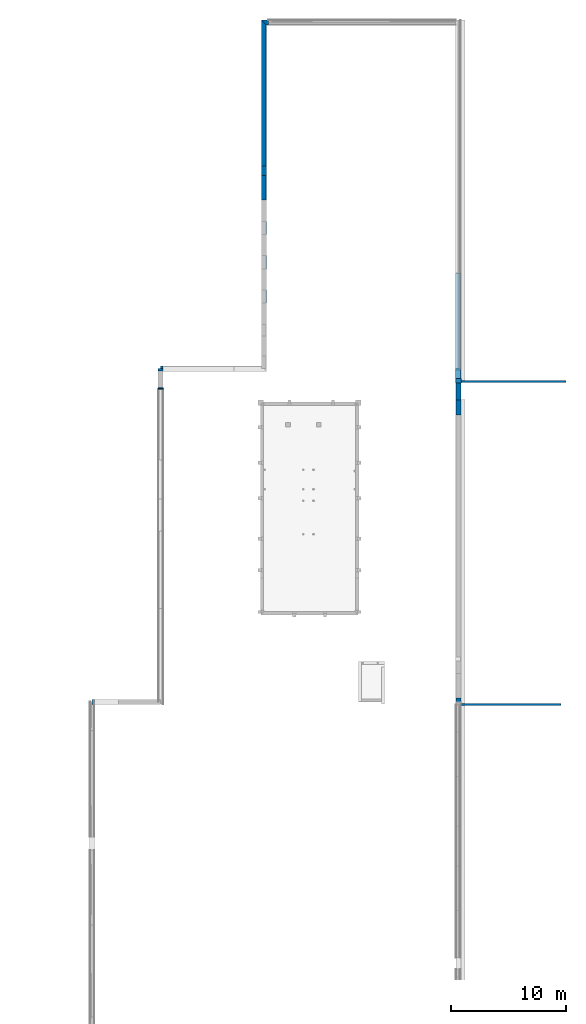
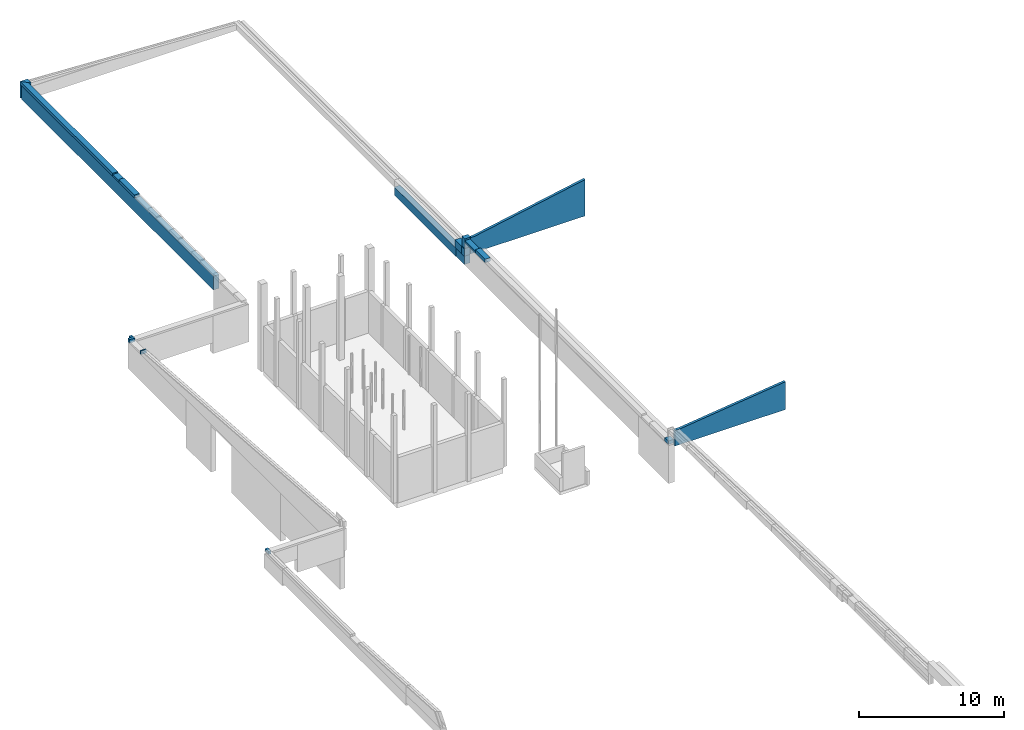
# One storey, part 4 of 17: 19 walls.
"""IFC2X3 building model written with IfcOpenShell, lengths in millimetres."""

from ifc_helpers import new_model, entity, si_unit, converted_unit, derived_unit, money_unit, direction, frame, origin_with_axes, place, context, subcontext, project, spatial, polyline, outline, extrude, boolean, faceted_brep, material, layer, layer_set, layer_usage, type_object, element, save


model = new_model("IFC2X3")

# Units and contexts
model_context = context("Model", 3, precision=0.01, world=origin_with_axes(), true_north=direction((0.0, 1.0)))
body_context = subcontext(model_context, "Body", "Model", "MODEL_VIEW")
ifc_project = project(units=[si_unit("LENGTHUNIT", "METRE", prefix="MILLI"), si_unit("AREAUNIT", "SQUARE_METRE"), si_unit("VOLUMEUNIT", "CUBIC_METRE"), converted_unit("PLANEANGLEUNIT", "DEGREE", entity("IfcPlaneAngleMeasure", 0.0174532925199), si_unit("PLANEANGLEUNIT", "RADIAN"), dimensions=[0, 0, 0, 0, 0, 0, 0]), si_unit("SOLIDANGLEUNIT", "STERADIAN"), money_unit("EUR"), converted_unit("TIMEUNIT", "Year", entity("IfcTimeMeasure", 31556926.0), si_unit("TIMEUNIT", "SECOND"), dimensions=[0, 0, 1, 0, 0, 0, 0]), si_unit("MASSUNIT", "GRAM", prefix="KILO"), si_unit("THERMODYNAMICTEMPERATUREUNIT", "DEGREE_CELSIUS"), si_unit("LUMINOUSINTENSITYUNIT", "LUMEN"), si_unit("ENERGYUNIT", "JOULE", prefix="MEGA"), derived_unit("THERMALCONDUCTANCEUNIT", [(si_unit("POWERUNIT", "WATT"), 1), (si_unit("LENGTHUNIT", "METRE"), -1), (si_unit("THERMODYNAMICTEMPERATUREUNIT", "KELVIN"), -1)]), derived_unit("SPECIFICHEATCAPACITYUNIT", [(si_unit("ENERGYUNIT", "JOULE"), 1), (si_unit("MASSUNIT", "GRAM", prefix="KILO"), -1), (si_unit("THERMODYNAMICTEMPERATUREUNIT", "KELVIN"), -1)]), derived_unit("MASSDENSITYUNIT", [(si_unit("MASSUNIT", "GRAM", prefix="KILO"), 1), (si_unit("VOLUMEUNIT", "CUBIC_METRE"), -1)])], contexts=[model_context])

# Site, building, storey
site_placement = place(None, origin_with_axes())
site = spatial("IfcSite", under=ifc_project, at=site_placement, Name="Puškini 31, Narva", CompositionType="ELEMENT")
building_placement = place(site_placement, origin_with_axes())
building = spatial("IfcBuilding", under=site, at=building_placement, Name="Narva Riigigümnaasium", CompositionType="ELEMENT")
storey_placement = place(building_placement, frame((0.0, 0.0, -6800.0), z_axis=(0.0, 0.0, 1.0), x_axis=(1.0, 0.0, 0.0)))
storey = spatial("IfcBuildingStorey", under=building, at=storey_placement, Name="0.korrus -6.8", CompositionType="ELEMENT", Elevation=-6800.0)

# Walls
ifc_material_1 = material(Name="KON-06_Raudbetoon - Konstruktsioon")
wall_type_1 = type_object("IfcWallType", Name="KON-06_Raudbetoon - Konstruktsioon 200", PredefinedType="NOTDEFINED")
wall_1_placement = place(storey_placement, frame((63166.6492392, 194765.0, 3200.0), z_axis=(0.0, 0.0, 1.0), x_axis=(-1.0, 0.0, 0.0)))
element("IfcWall", 1, at=wall_1_placement, inside=storey, type_object=wall_type_1, material=ifc_material_1, Name="Tugimüür", context=body_context, shape_type="CSG", body=[
    boolean("DIFFERENCE", extrude(outline(polyline([(0.0, 0.0), (8756.64106517, 0.0), (8756.64106517, 200.0), (0.0, 200.0), (0.0, 0.0)])), origin_with_axes(), (0.0, 0.0, 1.0), 2331.73929244), faceted_brep([(0.679470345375, 200.000000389, 2331.73929244), (0.679470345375, 2.03215222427e-07, 2331.73929244), (8756.64106517, 0.0, 2331.73929244), (8756.64106517, 200.0, 2331.73929244), (8356.64925138, 0.0, 1306.9349504), (8356.64925138, 200.0, 1306.9349504), (8756.64106517, 0.0, 1306.9349504), (8756.64106517, 200.0, 1306.9349504)], [[[0, 1, 2, 3]], [[4, 1, 0, 5]], [[4, 6, 2, 1]], [[6, 7, 3, 2]], [[5, 0, 3, 7]], [[6, 4, 5, 7]]])),
])
wall_2_placement = place(storey_placement, frame((63575.131775, 222978.992485, 2200.0), z_axis=(0.0, 0.0, 1.0), x_axis=(-1.0, 0.0, 0.0)))
element("IfcWall", 2, at=wall_2_placement, inside=storey, type_object=wall_type_1, material=ifc_material_1, Name="Tugimüür", context=body_context, shape_type="CSG", body=[
    boolean("DIFFERENCE", extrude(outline(polyline([(0.0, 0.0), (9115.83525027, 0.0), (9115.83525027, 200.0), (0.0, 200.0), (0.0, 0.0)])), origin_with_axes(), (0.0, 0.0, 1.0), 3057.26882789), faceted_brep([(-3.66007668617e-07, 200.00000039, 3057.26882789), (-3.66007668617e-07, 2.03243644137e-07, 3057.26882789), (9115.83525027, 0.0, 3057.26882789), (9115.83525027, 200.0, 3057.26882789), (8793.52616689, 0.0, 1355.66434067), (8793.52616689, 200.0, 1355.66434067), (9115.83436526, 0.0, 1355.66434067), (9115.83436526, 200.0, 1355.66434067)], [[[0, 1, 2, 3]], [[4, 1, 0, 5]], [[4, 6, 2, 1]], [[6, 7, 3, 2]], [[5, 0, 3, 7]], [[6, 4, 5, 7]]])),
])
ifc_material_2 = material(Name="Krohv")
ifc_layer_1 = layer(ifc_material_2, 10.0, ventilated="UNKNOWN")
ifc_material_3 = material(Name="Salto-PIR soojustus")
ifc_layer_2 = layer(ifc_material_3, 50.0, ventilated="UNKNOWN")
ifc_layer_3 = layer(ifc_material_3, 150.0, ventilated="UNKNOWN")
ifc_material_4 = material(Name="Betoon element")
ifc_layer_4 = layer(ifc_material_4, 200.0, ventilated="UNKNOWN")
ifc_material_5 = material(Name="Salto-siseviimistlus")
ifc_layer_5 = layer(ifc_material_5, 10.0, ventilated="UNKNOWN")
ifc_layer_set_1 = layer_set([ifc_layer_1, ifc_layer_2, ifc_layer_3, ifc_layer_4, ifc_layer_5], Name="G-VS-02")
ifc_layer_usage_1 = layer_usage(ifc_layer_set_1, "AXIS2", "NEGATIVE", 210.0)
wall_type_2 = type_object("IfcWallType", Name="G-VS-02 420", PredefinedType="NOTDEFINED")
wall_3_placement = place(storey_placement, frame((54200.000001, 195251.0, 3350.0), z_axis=(0.0, 0.0, 1.0), x_axis=(0.0, -1.0, 0.0)))
element("IfcWallStandardCase", 3, at=wall_3_placement, inside=storey, type_object=wall_type_2, material=ifc_layer_usage_1, Name="Sisesein", context=body_context, shape_type="SweptSolid", body=[
    extrude(outline(polyline([(0.0, -210.0), (486.000000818, -210.0), (486.000000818, 210.0), (0.0, 210.0), (0.0, -210.0)])), origin_with_axes(), (0.0, 0.0, 1.0), 286.939766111),
])
ifc_layer_usage_2 = layer_usage(ifc_layer_set_1, "AXIS2", "POSITIVE", -210.0)
wall_4_placement = place(storey_placement, frame((37602.0, 254230.0, 2200.0), z_axis=(0.0, 0.0, 1.0), x_axis=(-1.0, 0.0, 0.0)))
element("IfcWallStandardCase", 4, at=wall_4_placement, inside=storey, type_object=wall_type_2, material=ifc_layer_usage_2, Name="Sisesein", context=body_context, shape_type="SweptSolid", body=[
    extrude(outline(polyline([(0.0, -210.0), (611.999999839, -210.0), (191.999999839, 210.0), (0.0, 210.0), (0.0, -210.0)])), origin_with_axes(), (0.0, 0.0, 1.0), 1400.0),
])
wall_5_placement = place(storey_placement, frame((54200.000001, 222741.244262, 3350.0), z_axis=(0.0, 0.0, 1.0), x_axis=(0.0, -1.0, 0.0)))
element("IfcWallStandardCase", 5, at=wall_5_placement, inside=storey, type_object=wall_type_2, material=ifc_layer_usage_1, Name="Sisesein", context=body_context, shape_type="SweptSolid", body=[
    extrude(outline(polyline([(0.0, -210.0), (1461.24426308, -210.0), (1461.24426308, 210.0), (0.0, 210.0), (0.0, -210.0)])), origin_with_axes(), (0.0, 0.0, 1.0), 150.0),
])
wall_6_placement = place(storey_placement, frame((54200.000001, 221279.999999, 3350.0), z_axis=(0.0, 0.0, 1.0), x_axis=(0.0, -1.0, 0.0)))
element("IfcWallStandardCase", 6, at=wall_6_placement, inside=storey, type_object=wall_type_2, material=ifc_layer_usage_1, Name="Sisesein", context=body_context, shape_type="SweptSolid", body=[
    extrude(outline(polyline([(0.0, -210.0), (1348.97816396, -210.0), (1348.97816396, 210.0), (0.0, 210.0), (0.0, -210.0)])), origin_with_axes(), (0.0, 0.0, 1.0), 286.939766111),
])
wall_7_placement = place(storey_placement, frame((28200.0401775, 222328.737682, 3350.0), z_axis=(0.0, 0.0, 1.0), x_axis=(0.0, -1.0, 0.0)))
element("IfcWallStandardCase", 7, at=wall_7_placement, inside=storey, type_object=wall_type_2, material=ifc_layer_usage_2, Name="Sisesein", context=body_context, shape_type="SweptSolid", body=[
    extrude(outline(polyline([(0.0, -210.0), (109.995971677, -210.0), (109.995971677, 210.0), (0.0, 210.0), (0.0, -210.0)])), origin_with_axes(), (0.0, 0.0, 1.0), 299.999812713),
])
wall_8_placement = place(storey_placement, frame((28200.0404759, 224000.002571, 3350.0), z_axis=(0.0, 0.0, 1.0), x_axis=(0.0, -1.0, 0.0)))
element("IfcWallStandardCase", 8, at=wall_8_placement, inside=storey, type_object=wall_type_2, material=ifc_layer_usage_2, Name="Sisesein", context=body_context, shape_type="SweptSolid", body=[
    extrude(outline(polyline([(0.0, -210.0), (210.022117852, -210.0), (210.022117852, 210.0), (0.0, 210.0), (0.0, -210.0)])), origin_with_axes(), (0.0, 0.0, 1.0), 299.999812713),
])
wall_9_placement = place(storey_placement, frame((28410.0404759, 224000.000002, 3350.0), z_axis=(0.0, 0.0, 1.0), x_axis=(-1.0, 0.0, 0.0)))
element("IfcWallStandardCase", 9, at=wall_9_placement, inside=storey, type_object=wall_type_2, material=ifc_layer_usage_2, Name="Sisesein", context=body_context, shape_type="SweptSolid", body=[
    extrude(outline(polyline([(0.0, -210.0), (210.0, -210.0), (210.0, 210.0), (0.0, 210.0), (0.0, -210.0)])), origin_with_axes(), (0.0, 0.0, 1.0), 299.999812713),
])
wall_10_placement = place(storey_placement, frame((37200.0000002, 254230.0, 3350.0), z_axis=(0.0, 0.0, 1.0), x_axis=(0.0, -1.0, 0.0)))
element("IfcWallStandardCase", 10, at=wall_10_placement, inside=storey, type_object=wall_type_2, material=ifc_layer_usage_2, Name="Välissein", context=body_context, shape_type="SweptSolid", body=[
    extrude(outline(polyline([(-210.0, -210.0), (12520.7874218, -210.0), (12520.7874218, 210.0), (210.0, 210.0), (-210.0, -210.0)])), origin_with_axes(), (0.0, 0.0, 1.0), 250.0),
])
wall_11_placement = place(storey_placement, frame((37200.0000002, 240859.212578, 3350.0), z_axis=(0.0, 0.0, 1.0), x_axis=(0.0, -1.0, 0.0)))
element("IfcWallStandardCase", 11, at=wall_11_placement, inside=storey, type_object=wall_type_2, material=ifc_layer_usage_2, Name="Välissein", context=body_context, shape_type="SweptSolid", body=[
    extrude(outline(polyline([(0.0, -210.0), (2150.0, -210.0), (2150.0, 210.0), (0.0, 210.0), (0.0, -210.0)])), origin_with_axes(), (0.0, 0.0, 1.0), 250.0),
])
ifc_material_6 = material(Name="fassaadiplaat")
ifc_layer_6 = layer(ifc_material_6, 8.0, ventilated="UNKNOWN")
ifc_material_7 = material(Name="Salto-roovitus")
ifc_layer_7 = layer(ifc_material_7, 50.0, ventilated="UNKNOWN")
ifc_layer_set_2 = layer_set([ifc_layer_6, ifc_layer_7, ifc_layer_2, ifc_layer_3, ifc_layer_4], Name="G-VS-01-01")
ifc_layer_usage_3 = layer_usage(ifc_layer_set_2, "AXIS2", "NEGATIVE", 258.0)
wall_type_3 = type_object("IfcWallType", Name="G-VS-01-01 458", PredefinedType="NOTDEFINED")
wall_12_placement = place(storey_placement, frame((54200.0000018, 223130.236748, 2836.05362487), z_axis=(0.0, 0.0, 1.0), x_axis=(0.0, -1.0, 0.0)))
element("IfcWallStandardCase", 12, at=wall_12_placement, inside=storey, type_object=wall_type_3, material=ifc_layer_usage_3, Name="Sisesein", context=body_context, shape_type="SweptSolid", body=[
    extrude(outline(polyline([(0.0, -200.0), (388.99248658, -200.0), (388.99248658, 258.0), (0.0, 258.0), (0.0, -200.0)])), origin_with_axes(), (0.0, 0.0, 1.0), 800.88614124),
])
ifc_material_8 = material(Name="Betoon_1")
ifc_layer_8 = layer(ifc_material_8, 250.0, ventilated="UNKNOWN")
ifc_layer_9 = layer(ifc_material_5, 0.0, ventilated="UNKNOWN")
ifc_layer_set_3 = layer_set([ifc_layer_1, ifc_layer_2, ifc_layer_3, ifc_layer_8, ifc_layer_9], Name="G-VS-05")
ifc_layer_usage_4 = layer_usage(ifc_layer_set_3, "AXIS2", "NEGATIVE", 210.0)
wall_type_4 = type_object("IfcWallType", Name="G-VS-05 460", PredefinedType="NOTDEFINED")
wall_13_placement = place(storey_placement, frame((54200.0000018, 224005.149008, 2200.0), z_axis=(0.0, 0.0, 1.0), x_axis=(0.0, -1.0, 0.0)))
element("IfcWallStandardCase", 13, at=wall_13_placement, inside=storey, type_object=wall_type_4, material=ifc_layer_usage_4, Name="Sisesein", context=body_context, shape_type="SweptSolid", body=[
    extrude(outline(polyline([(0.0, -250.0), (874.912259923, -250.0), (874.912259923, 210.0), (0.0, 210.0), (0.0, -250.0)])), origin_with_axes(), (0.0, 0.0, 1.0), 636.053624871),
])
ifc_layer_usage_5 = layer_usage(ifc_layer_set_3, "AXIS2", "POSITIVE", -210.0)
wall_14_placement = place(storey_placement, frame((37200.0000002, 241709.212578, 3350.0), z_axis=(0.0, 0.0, 1.0), x_axis=(0.0, -1.0, 0.0)))
element("IfcWallStandardCase", 14, at=wall_14_placement, inside=storey, type_object=wall_type_4, material=ifc_layer_usage_5, Name="Välissein", context=body_context, shape_type="SweptSolid", body=[
    extrude(outline(polyline([(0.0, -210.0), (850.0, -210.0), (850.0, 250.0), (0.0, 250.0), (0.0, -210.0)])), origin_with_axes(), (0.0, 0.0, 1.0), 150.0),
])
wall_15_placement = place(storey_placement, frame((54200.0000018, 223130.236748, 2200.0), z_axis=(0.0, 0.0, 1.0), x_axis=(0.0, -1.0, 0.0)))
element("IfcWallStandardCase", 15, at=wall_15_placement, inside=storey, type_object=wall_type_4, material=ifc_layer_usage_4, Name="Sisesein", context=body_context, shape_type="SweptSolid", body=[
    extrude(outline(polyline([(0.0, -250.0), (388.99248658, -250.0), (388.99248658, 210.0), (0.0, 210.0), (0.0, -250.0)])), origin_with_axes(), (0.0, 0.0, 1.0), 636.053624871),
])
wall_16_placement = place(storey_placement, frame((22409.9999985, 194900.0, 5329.99999904), z_axis=(0.0, 0.0, 1.0), x_axis=(-1.0, 0.0, 0.0)))
element("IfcWallStandardCase", 16, at=wall_16_placement, inside=storey, type_object=wall_type_4, material=ifc_layer_usage_5, Name="Sisesein", context=body_context, shape_type="SweptSolid", body=[
    extrude(outline(polyline([(0.0, -210.0), (209.999999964, -210.0), (209.999999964, 250.0), (0.0, 250.0), (0.0, -210.0)])), origin_with_axes(), (0.0, 0.0, 1.0), 220.272012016),
])
ifc_layer_10 = layer(ifc_material_3, 200.0, ventilated="UNKNOWN")
ifc_layer_set_4 = layer_set([ifc_layer_10, ifc_layer_8, ifc_layer_9], Name="G-VS-06")
ifc_layer_usage_6 = layer_usage(ifc_layer_set_4, "AXIS2", "NEGATIVE", 200.0)
wall_type_5 = type_object("IfcWallType", Name="G-VS-06 450", PredefinedType="NOTDEFINED")
wall_17_placement = place(storey_placement, frame((54200.000001, 223887.100461, 1500.0), z_axis=(0.0, 0.0, 1.0), x_axis=(0.0, -1.0, 0.0)))
element("IfcWallStandardCase", 17, at=wall_17_placement, inside=storey, type_object=wall_type_5, material=ifc_layer_usage_6, Name="Sisesein", context=body_context, shape_type="SweptSolid", body=[
    extrude(outline(polyline([(0.0, -250.0), (1145.85619881, -250.0), (1145.85619881, 200.0), (0.0, 200.0), (0.0, -250.0)])), origin_with_axes(), (0.0, 0.0, 1.0), 700.0),
])
ifc_layer_usage_7 = layer_usage(ifc_layer_set_4, "AXIS2", "POSITIVE", -200.0)
wall_18_placement = place(storey_placement, frame((37200.0000002, 254230.0, 2200.0), z_axis=(0.0, 0.0, 1.0), x_axis=(0.0, -1.0, 0.0)))
element("IfcWallStandardCase", 18, at=wall_18_placement, inside=storey, type_object=wall_type_5, material=ifc_layer_usage_7, Name="Välissein", context=body_context, shape_type="SweptSolid", body=[
    extrude(outline(polyline([(0.0, -200.0), (26370.7874222, -200.0), (26370.7874222, 250.0), (0.0, 250.0), (0.0, -200.0)])), origin_with_axes(), (0.0, 0.0, 1.0), 1150.0),
])
wall_19_placement = place(storey_placement, frame((54200.0000004, 232343.933081, 1500.0), z_axis=(0.0, 0.0, 1.0), x_axis=(0.0, -1.0, 0.0)))
element("IfcWallStandardCase", 19, at=wall_19_placement, inside=storey, type_object=wall_type_5, material=ifc_layer_usage_6, Name="Sisesein", context=body_context, shape_type="SweptSolid", body=[
    extrude(outline(polyline([(0.0, -250.0), (8456.83262038, -250.0), (8456.83262038, 200.0), (0.0, 200.0), (0.0, -250.0)])), origin_with_axes(), (0.0, 0.0, 1.0), 700.0),
])

save(model, "model.ifc")
